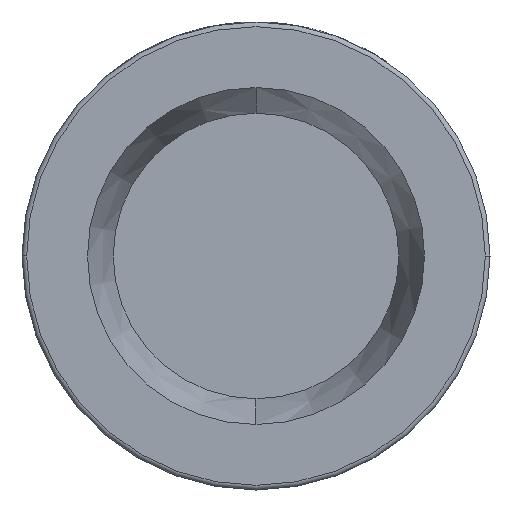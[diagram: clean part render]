
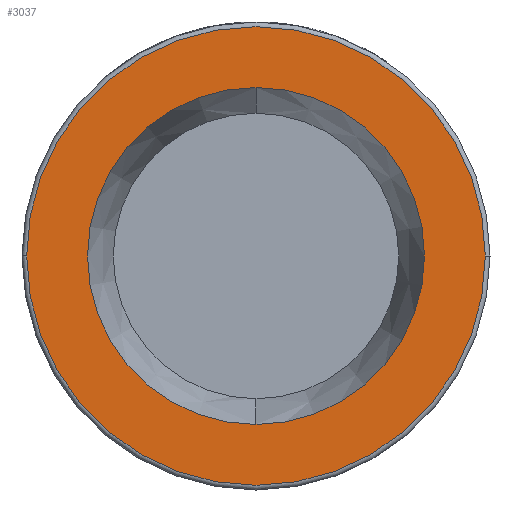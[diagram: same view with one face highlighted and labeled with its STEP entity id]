
A CAD part, front view. The second image highlights one B-rep face of the part: STEP entity #3037.
In plain terms, the highlighted planar face has unit normal (0, -1, 0).
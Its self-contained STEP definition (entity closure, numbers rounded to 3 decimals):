
#42 = CARTESIAN_POINT ( 'NONE',  ( 0., -32., 0. ) ) ;
#121 = VERTEX_POINT ( 'NONE', #2861 ) ;
#273 = FACE_OUTER_BOUND ( 'NONE', #1038, .T. ) ;
#361 = DIRECTION ( 'NONE',  ( 0., 0., -1. ) ) ;
#377 = DIRECTION ( 'NONE',  ( 1., 0., 0. ) ) ;
#425 = CARTESIAN_POINT ( 'NONE',  ( 0., -32., 0. ) ) ;
#566 = DIRECTION ( 'NONE',  ( 0., -1., 0. ) ) ;
#947 = EDGE_CURVE ( 'NONE', #1626, #2160, #4099, .T. ) ;
#950 = AXIS2_PLACEMENT_3D ( 'NONE', #2761, #566, #1655 ) ;
#996 = EDGE_LOOP ( 'NONE', ( #3770, #3472 ) ) ;
#1007 = DIRECTION ( 'NONE',  ( 0., -1., 0. ) ) ;
#1038 = EDGE_LOOP ( 'NONE', ( #3532, #2326 ) ) ;
#1093 = AXIS2_PLACEMENT_3D ( 'NONE', #2926, #4318, #2528 ) ;
#1446 = DIRECTION ( 'NONE',  ( 0., -1., 0. ) ) ;
#1541 = AXIS2_PLACEMENT_3D ( 'NONE', #42, #1446, #4277 ) ;
#1617 = CIRCLE ( 'NONE', #4210, 49. ) ;
#1626 = VERTEX_POINT ( 'NONE', #2458 ) ;
#1655 = DIRECTION ( 'NONE',  ( 1., 0., 0. ) ) ;
#2160 = VERTEX_POINT ( 'NONE', #4527 ) ;
#2176 = DIRECTION ( 'NONE',  ( 0., -1., 0. ) ) ;
#2302 = VERTEX_POINT ( 'NONE', #3939 ) ;
#2326 = ORIENTED_EDGE ( 'NONE', *, *, #3657, .T. ) ;
#2346 = CIRCLE ( 'NONE', #1093, 49. ) ;
#2458 = CARTESIAN_POINT ( 'NONE',  ( 0., -32., -36. ) ) ;
#2491 = CIRCLE ( 'NONE', #1541, 36. ) ;
#2528 = DIRECTION ( 'NONE',  ( 1., 0., 0. ) ) ;
#2687 = CARTESIAN_POINT ( 'NONE',  ( 0., -32., 0. ) ) ;
#2761 = CARTESIAN_POINT ( 'NONE',  ( 50., -32., 0. ) ) ;
#2861 = CARTESIAN_POINT ( 'NONE',  ( -49., -32., 0. ) ) ;
#2926 = CARTESIAN_POINT ( 'NONE',  ( 0., -32., 0. ) ) ;
#3037 = ADVANCED_FACE ( 'NONE', ( #4185, #273 ), #3759, .T. ) ;
#3443 = EDGE_CURVE ( 'NONE', #2160, #1626, #2491, .T. ) ;
#3472 = ORIENTED_EDGE ( 'NONE', *, *, #3443, .F. ) ;
#3503 = EDGE_CURVE ( 'NONE', #2302, #121, #1617, .T. ) ;
#3532 = ORIENTED_EDGE ( 'NONE', *, *, #3503, .T. ) ;
#3657 = EDGE_CURVE ( 'NONE', #121, #2302, #2346, .T. ) ;
#3759 = PLANE ( 'NONE',  #950 ) ;
#3770 = ORIENTED_EDGE ( 'NONE', *, *, #947, .F. ) ;
#3791 = AXIS2_PLACEMENT_3D ( 'NONE', #425, #2176, #361 ) ;
#3939 = CARTESIAN_POINT ( 'NONE',  ( 49., -32., 0. ) ) ;
#4099 = CIRCLE ( 'NONE', #3791, 36. ) ;
#4185 = FACE_BOUND ( 'NONE', #996, .T. ) ;
#4210 = AXIS2_PLACEMENT_3D ( 'NONE', #2687, #1007, #377 ) ;
#4277 = DIRECTION ( 'NONE',  ( 0., 0., -1. ) ) ;
#4318 = DIRECTION ( 'NONE',  ( 0., -1., 0. ) ) ;
#4527 = CARTESIAN_POINT ( 'NONE',  ( 0., -32., 36. ) ) ;
